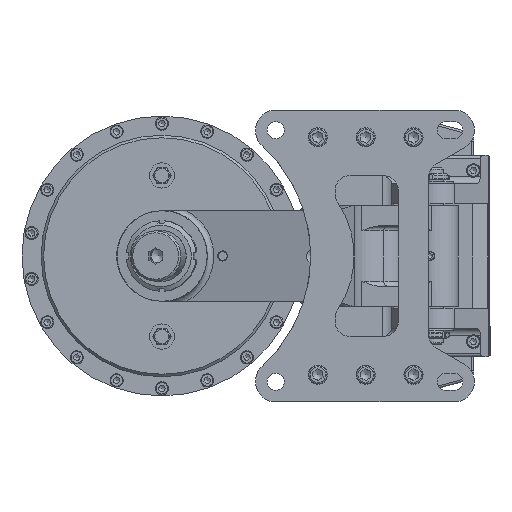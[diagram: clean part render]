
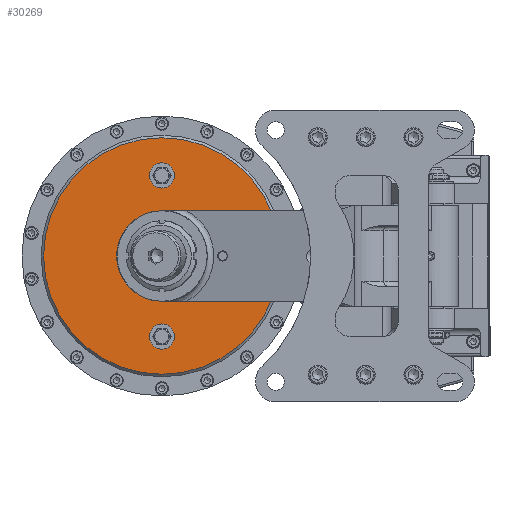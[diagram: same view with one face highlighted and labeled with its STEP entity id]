
A CAD part, left-side view. The second image highlights one B-rep face of the part: STEP entity #30269.
In plain terms, the highlighted planar face has unit normal (-1, 0, 0).
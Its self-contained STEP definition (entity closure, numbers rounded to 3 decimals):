
#910=FACE_BOUND('',#3831,.T.);
#911=FACE_BOUND('',#3832,.T.);
#912=FACE_BOUND('',#3833,.T.);
#1174=PLANE('',#32003);
#2165=FACE_OUTER_BOUND('',#3830,.T.);
#3830=EDGE_LOOP('',(#19462));
#3831=EDGE_LOOP('',(#19463,#19464));
#3832=EDGE_LOOP('',(#19465,#19466));
#3833=EDGE_LOOP('',(#19467,#19468));
#10115=CIRCLE('',#32004,117.5);
#10116=CIRCLE('',#32005,12.5);
#10117=CIRCLE('',#32006,12.5);
#10118=CIRCLE('',#32007,12.5);
#10119=CIRCLE('',#32008,12.5);
#10120=CIRCLE('',#32009,45.);
#10121=CIRCLE('',#32010,45.);
#11812=VERTEX_POINT('',#44447);
#11813=VERTEX_POINT('',#44449);
#11814=VERTEX_POINT('',#44450);
#11815=VERTEX_POINT('',#44453);
#11816=VERTEX_POINT('',#44454);
#11817=VERTEX_POINT('',#44457);
#11818=VERTEX_POINT('',#44458);
#14845=EDGE_CURVE('',#11812,#11812,#10115,.T.);
#14846=EDGE_CURVE('',#11813,#11814,#10116,.T.);
#14847=EDGE_CURVE('',#11814,#11813,#10117,.T.);
#14848=EDGE_CURVE('',#11815,#11816,#10118,.T.);
#14849=EDGE_CURVE('',#11816,#11815,#10119,.T.);
#14850=EDGE_CURVE('',#11817,#11818,#10120,.T.);
#14851=EDGE_CURVE('',#11818,#11817,#10121,.T.);
#19462=ORIENTED_EDGE('',*,*,#14845,.F.);
#19463=ORIENTED_EDGE('',*,*,#14846,.T.);
#19464=ORIENTED_EDGE('',*,*,#14847,.T.);
#19465=ORIENTED_EDGE('',*,*,#14848,.T.);
#19466=ORIENTED_EDGE('',*,*,#14849,.T.);
#19467=ORIENTED_EDGE('',*,*,#14850,.F.);
#19468=ORIENTED_EDGE('',*,*,#14851,.F.);
#30269=ADVANCED_FACE('',(#2165,#910,#911,#912),#1174,.T.);
#32003=AXIS2_PLACEMENT_3D('',#44446,#35518,#35519);
#32004=AXIS2_PLACEMENT_3D('',#44448,#35520,#35521);
#32005=AXIS2_PLACEMENT_3D('',#44451,#35522,#35523);
#32006=AXIS2_PLACEMENT_3D('',#44452,#35524,#35525);
#32007=AXIS2_PLACEMENT_3D('',#44455,#35526,#35527);
#32008=AXIS2_PLACEMENT_3D('',#44456,#35528,#35529);
#32009=AXIS2_PLACEMENT_3D('',#44459,#35530,#35531);
#32010=AXIS2_PLACEMENT_3D('',#44460,#35532,#35533);
#35518=DIRECTION('center_axis',(-1.,0.,0.));
#35519=DIRECTION('ref_axis',(0.,-1.,0.));
#35520=DIRECTION('center_axis',(1.,0.,0.));
#35521=DIRECTION('ref_axis',(0.,0.,
-1.));
#35522=DIRECTION('center_axis',(1.,0.,0.));
#35523=DIRECTION('ref_axis',(0.,-1.,0.));
#35524=DIRECTION('center_axis',(1.,0.,0.));
#35525=DIRECTION('ref_axis',(0.,-1.,0.));
#35526=DIRECTION('center_axis',(1.,0.,0.));
#35527=DIRECTION('ref_axis',(0.,1.,0.));
#35528=DIRECTION('center_axis',(1.,0.,0.));
#35529=DIRECTION('ref_axis',(0.,1.,0.));
#35530=DIRECTION('center_axis',(-1.,0.,0.));
#35531=DIRECTION('ref_axis',(0.,0.,
1.));
#35532=DIRECTION('center_axis',(-1.,0.,0.));
#35533=DIRECTION('ref_axis',(0.,0.,
1.));
#44446=CARTESIAN_POINT('Origin',(102.1,310.,223.));
#44447=CARTESIAN_POINT('',(102.1,310.,267.5));
#44448=CARTESIAN_POINT('Origin',(102.1,310.,150.));
#44449=CARTESIAN_POINT('',(102.1,297.5,230.));
#44450=CARTESIAN_POINT('',(102.1,322.5,230.));
#44451=CARTESIAN_POINT('Origin',(102.1,310.,230.));
#44452=CARTESIAN_POINT('Origin',(102.1,310.,230.));
#44453=CARTESIAN_POINT('',(102.1,322.5,70.));
#44454=CARTESIAN_POINT('',(102.1,297.5,70.));
#44455=CARTESIAN_POINT('Origin',(102.1,310.,70.));
#44456=CARTESIAN_POINT('Origin',(102.1,310.,70.));
#44457=CARTESIAN_POINT('',(102.1,310.,105.));
#44458=CARTESIAN_POINT('',(102.1,310.,195.));
#44459=CARTESIAN_POINT('Origin',(102.1,310.,150.));
#44460=CARTESIAN_POINT('Origin',(102.1,310.,150.));
